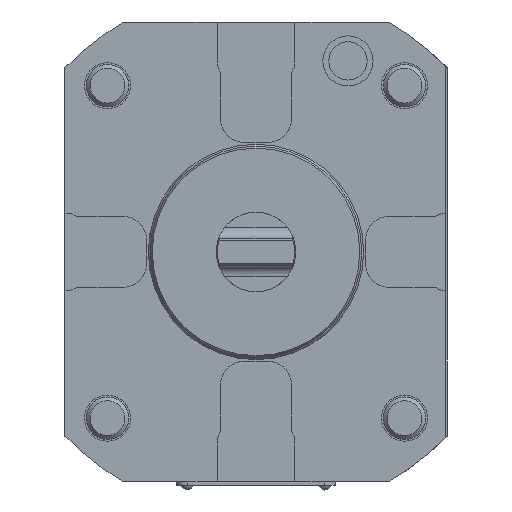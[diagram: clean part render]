
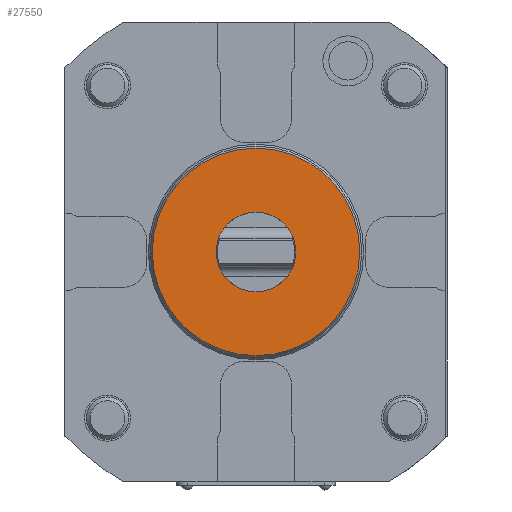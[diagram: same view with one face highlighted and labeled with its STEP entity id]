
A CAD part, left-side view. The second image highlights one B-rep face of the part: STEP entity #27550.
In plain terms, the highlighted planar face has unit normal (-1, 0, 0).
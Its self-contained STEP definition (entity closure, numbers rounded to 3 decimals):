
#10559=CIRCLE('',#26636,29.323);
#10560=CIRCLE('',#26638,11.25);
#11832=ORIENTED_EDGE('',*,*,#15027,.T.);
#11833=ORIENTED_EDGE('',*,*,#15028,.T.);
#14188=VERTEX_POINT('',#24174);
#14189=VERTEX_POINT('',#24177);
#15027=EDGE_CURVE('',#14188,#14188,#10559,.T.);
#15028=EDGE_CURVE('',#14189,#14189,#10560,.T.);
#15896=EDGE_LOOP('',(#11832));
#15897=EDGE_LOOP('',(#11833));
#16524=FACE_BOUND('',#15896,.T.);
#16525=FACE_BOUND('',#15897,.T.);
#17876=DIRECTION('',(-1.,0.,0.));
#17877=DIRECTION('',(0.,0.,29.323));
#17878=DIRECTION('',(-1.,0.,0.));
#17879=DIRECTION('',(0.,1.,0.));
#17880=DIRECTION('',(1.,0.,0.));
#17881=DIRECTION('',(0.,0.,-11.25));
#24174=CARTESIAN_POINT('',(-53.,0.,29.323));
#24175=CARTESIAN_POINT('',(-53.,0.,0.));
#24176=CARTESIAN_POINT('',(-53.,0.,-29.9));
#24177=CARTESIAN_POINT('',(-53.,-0.003,-11.25));
#24178=CARTESIAN_POINT('',(-53.,-0.003,0.));
#26636=AXIS2_PLACEMENT_3D('',#24175,#17876,#17877);
#26637=AXIS2_PLACEMENT_3D('',#24176,#17878,#17879);
#26638=AXIS2_PLACEMENT_3D('',#24178,#17880,#17881);
#27196=PLANE('',#26637);
#27550=ADVANCED_FACE('',(#16524,#16525),#27196,.T.);
